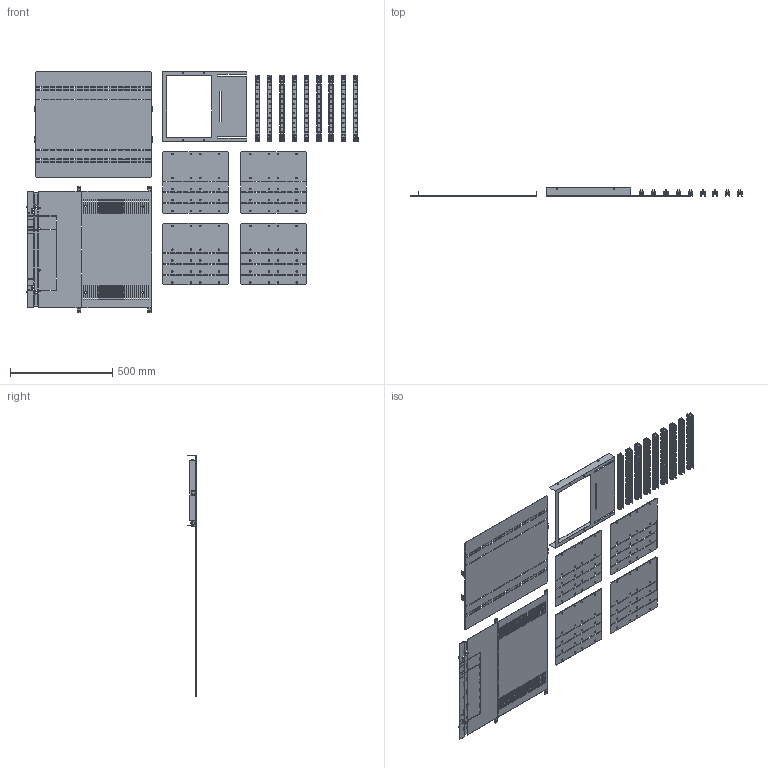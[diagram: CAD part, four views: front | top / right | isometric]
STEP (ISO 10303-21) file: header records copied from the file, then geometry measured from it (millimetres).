
FILE_DESCRIPTION (( 'STEP AP214' ), '1' );
FILE_NAME ('04844.STEP', '2018-01-29T10:35:42', ( '' ), ( '' ), 'SwSTEP 2.0', 'SolidWorks 2015', '' );
FILE_SCHEMA (( 'AUTOMOTIVE_DESIGN' ));
Length unit declared in the file: millimetre
Products named in the file (6): 04844-3_D‚faut-(01); 04844-1_D‚faut-(01); 04844-5_D‚faut-(01); 04844-4_D‚faut-(01); 04844; 04844-2_D‚faut-(01)
Assembly tree (16 placements, depth 2):
  04844
    04844-1_D‚faut-(01)
    04844-3_D‚faut-(01)  x4
    04844-2_D‚faut-(01)  x9
    04844-4_D‚faut-(01)
    04844-5_D‚faut-(01)
Bounding box: 1620 x 41 x 1179 mm (x, y, z)
Volume: 2530455 mm3; surface area: 2779002.8 mm2
Topology: 29 solids, 29 shells, 9338 faces, 28227 edges, 18614 vertices
Faces by surface type: plane 6600, cylinder 2702, bspline 36
Entity records: 126838 total; most frequent: CARTESIAN_POINT 22116, ORIENTED_EDGE 22070, DIRECTION 21661, EDGE_CURVE 11035, LINE 7807, VECTOR 7807, VERTEX_POINT 7334, AXIS2_PLACEMENT_3D 6927
